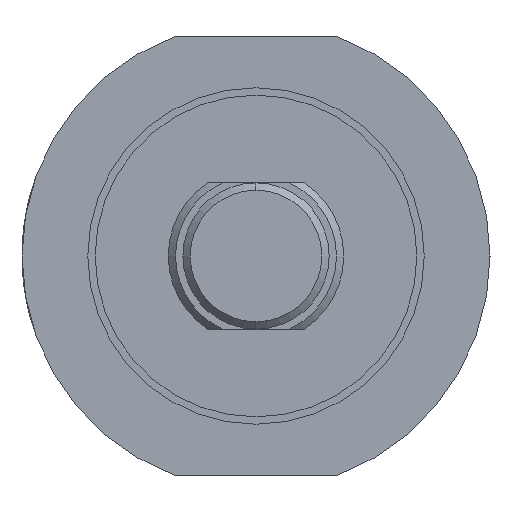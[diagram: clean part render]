
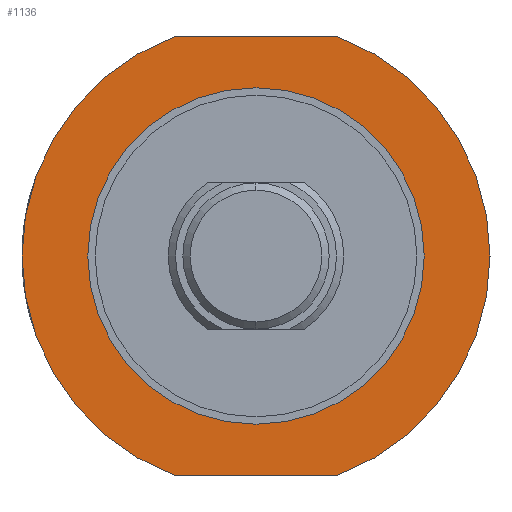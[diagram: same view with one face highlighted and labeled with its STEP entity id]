
A CAD part, left-side view. The second image highlights one B-rep face of the part: STEP entity #1136.
In plain terms, the highlighted planar face has unit normal (-1, 0, 0).
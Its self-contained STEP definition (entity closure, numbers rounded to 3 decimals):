
#43 = CARTESIAN_POINT ( 'NONE',  ( 42., 0., 0. ) ) ;
#68 = VECTOR ( 'NONE', #225, 1000. ) ;
#83 = VECTOR ( 'NONE', #238, 1000. ) ;
#111 = FACE_OUTER_BOUND ( 'NONE', #183, .T. ) ;
#129 = VERTEX_POINT ( 'NONE', #318 ) ;
#169 = DIRECTION ( 'NONE',  ( 0., 0., 1. ) ) ;
#183 = EDGE_LOOP ( 'NONE', ( #1370, #1229, #1470, #1043 ) ) ;
#210 = CARTESIAN_POINT ( 'NONE',  ( 42., 11.874, 15. ) ) ;
#219 = EDGE_CURVE ( 'NONE', #383, #1200, #1581, .T. ) ;
#225 = DIRECTION ( 'NONE',  ( 0., 1., 0. ) ) ;
#238 = DIRECTION ( 'NONE',  ( 0., -1., 0. ) ) ;
#270 = CARTESIAN_POINT ( 'NONE',  ( 42., 0., 0. ) ) ;
#286 = DIRECTION ( 'NONE',  ( 0., 0., 1. ) ) ;
#302 = CARTESIAN_POINT ( 'NONE',  ( 42., 0., -16. ) ) ;
#318 = CARTESIAN_POINT ( 'NONE',  ( 42., 5.568, 15. ) ) ;
#340 = AXIS2_PLACEMENT_3D ( 'NONE', #270, #1455, #169 ) ;
#382 = VERTEX_POINT ( 'NONE', #863 ) ;
#383 = VERTEX_POINT ( 'NONE', #892 ) ;
#410 = FACE_BOUND ( 'NONE', #1131, .T. ) ;
#432 = DIRECTION ( 'NONE',  ( 0., 0., 1. ) ) ;
#442 = PLANE ( 'NONE',  #539 ) ;
#477 = ORIENTED_EDGE ( 'NONE', *, *, #219, .F. ) ;
#539 = AXIS2_PLACEMENT_3D ( 'NONE', #302, #1286, #1149 ) ;
#556 = VERTEX_POINT ( 'NONE', #1417 ) ;
#603 = CARTESIAN_POINT ( 'NONE',  ( 42., 11.874, -15. ) ) ;
#631 = AXIS2_PLACEMENT_3D ( 'NONE', #690, #964, #432 ) ;
#647 = CIRCLE ( 'NONE', #340, 11.5 ) ;
#678 = EDGE_CURVE ( 'NONE', #1200, #383, #647, .T. ) ;
#690 = CARTESIAN_POINT ( 'NONE',  ( 42., 0., 0. ) ) ;
#718 = CARTESIAN_POINT ( 'NONE',  ( 42., 5.568, -15. ) ) ;
#720 = DIRECTION ( 'NONE',  ( -1., 0., 0. ) ) ;
#851 = DIRECTION ( 'NONE',  ( 0., 0., 1. ) ) ;
#863 = CARTESIAN_POINT ( 'NONE',  ( 42., -5.568, -15. ) ) ;
#890 = EDGE_CURVE ( 'NONE', #129, #556, #1355, .T. ) ;
#892 = CARTESIAN_POINT ( 'NONE',  ( 42., 0., 11.5 ) ) ;
#934 = LINE ( 'NONE', #603, #68 ) ;
#937 = CIRCLE ( 'NONE', #631, 16. ) ;
#964 = DIRECTION ( 'NONE',  ( -1., 0., 0. ) ) ;
#980 = CARTESIAN_POINT ( 'NONE',  ( 42., 0., -11.5 ) ) ;
#985 = EDGE_CURVE ( 'NONE', #129, #1433, #937, .T. ) ;
#1043 = ORIENTED_EDGE ( 'NONE', *, *, #890, .F. ) ;
#1089 = CIRCLE ( 'NONE', #1463, 16. ) ;
#1131 = EDGE_LOOP ( 'NONE', ( #477, #1381 ) ) ;
#1136 = ADVANCED_FACE ( 'NONE', ( #410, #111 ), #442, .F. ) ;
#1149 = DIRECTION ( 'NONE',  ( 0., 0., -1. ) ) ;
#1200 = VERTEX_POINT ( 'NONE', #980 ) ;
#1229 = ORIENTED_EDGE ( 'NONE', *, *, #1521, .F. ) ;
#1278 = EDGE_CURVE ( 'NONE', #382, #556, #1089, .T. ) ;
#1286 = DIRECTION ( 'NONE',  ( 1., 0., 0. ) ) ;
#1319 = DIRECTION ( 'NONE',  ( -1., 0., 0. ) ) ;
#1355 = LINE ( 'NONE', #210, #83 ) ;
#1370 = ORIENTED_EDGE ( 'NONE', *, *, #985, .T. ) ;
#1381 = ORIENTED_EDGE ( 'NONE', *, *, #678, .F. ) ;
#1417 = CARTESIAN_POINT ( 'NONE',  ( 42., -5.568, 15. ) ) ;
#1418 = AXIS2_PLACEMENT_3D ( 'NONE', #43, #720, #851 ) ;
#1433 = VERTEX_POINT ( 'NONE', #718 ) ;
#1455 = DIRECTION ( 'NONE',  ( -1., 0., 0. ) ) ;
#1463 = AXIS2_PLACEMENT_3D ( 'NONE', #1558, #1319, #286 ) ;
#1470 = ORIENTED_EDGE ( 'NONE', *, *, #1278, .T. ) ;
#1521 = EDGE_CURVE ( 'NONE', #382, #1433, #934, .T. ) ;
#1558 = CARTESIAN_POINT ( 'NONE',  ( 42., 0., 0. ) ) ;
#1581 = CIRCLE ( 'NONE', #1418, 11.5 ) ;
